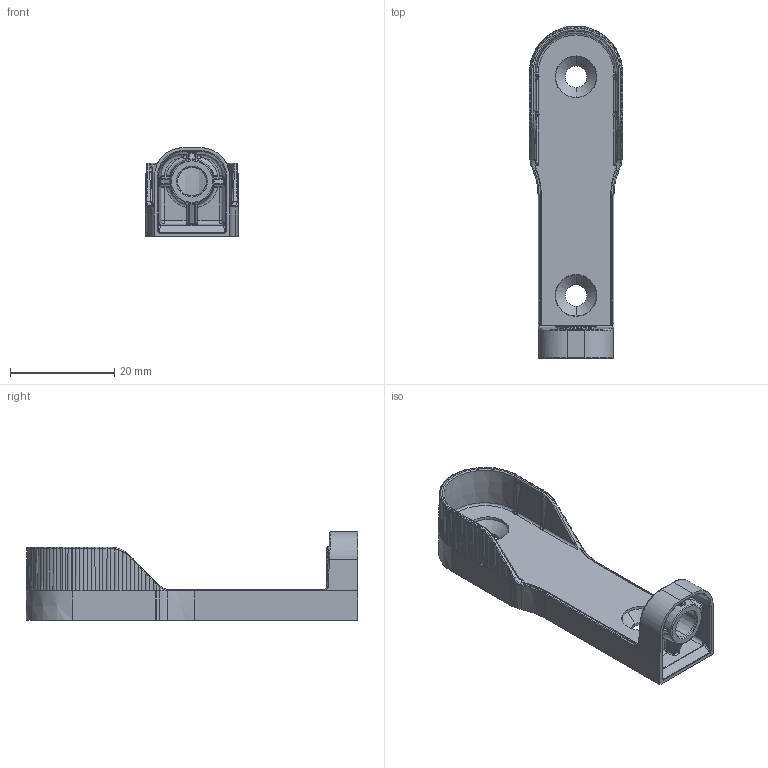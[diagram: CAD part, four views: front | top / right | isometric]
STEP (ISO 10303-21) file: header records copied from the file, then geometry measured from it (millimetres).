
FILE_DESCRIPTION (( 'STEP AP214' ), '1' );
FILE_NAME ('17846.STEP', '2025-10-30T13:15:02', ( '' ), ( '' ), 'SwSTEP 2.0', 'SolidWorks 2022', '' );
FILE_SCHEMA (( 'AUTOMOTIVE_DESIGN' ));
Length unit declared in the file: millimetre
Products named in the file (1): 17846
Bounding box: 17.89 x 63.75 x 17.02 mm (x, y, z)
Volume: 2577.1 mm3; surface area: 5254.2 mm2
Topology: 1 solids, 1 shells, 863 faces, 2155 edges, 1273 vertices
Faces by surface type: bspline 257, plane 195, cylinder 189, torus 120, cone 100, sphere 2
Entity records: 32725 total; most frequent: CARTESIAN_POINT 14515, ORIENTED_EDGE 4250, DIRECTION 3323, EDGE_CURVE 2125, AXIS2_PLACEMENT_3D 1362, VERTEX_POINT 1273, EDGE_LOOP 878, FACE_OUTER_BOUND 863
